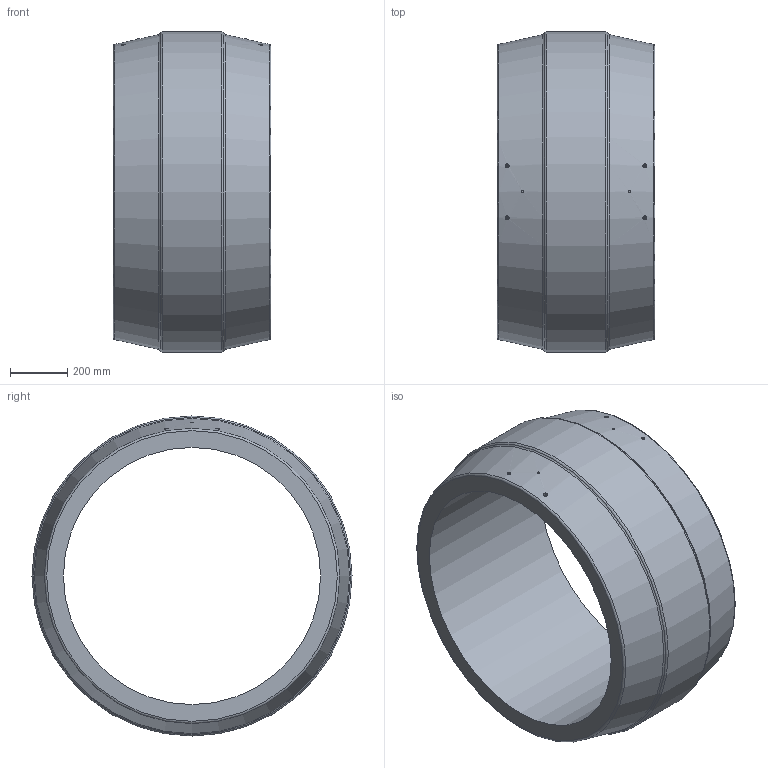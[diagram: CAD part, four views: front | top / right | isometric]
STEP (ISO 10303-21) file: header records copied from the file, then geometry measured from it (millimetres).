
FILE_DESCRIPTION(/* description */ ('Unknown'),/* implementation_level */ '2;1');
FILE_NAME(/* name */ 'MP900C',/* time_stamp */ '2021-06-25T10:08:05+02:00',/* author */ ('Unknown'),/* organization */ ('Unknown'),/* preprocessor_version */ 'ST-DEVELOPER v16.7',/* originating_system */ 'Solid Edge',/* authorisation */ 'Unknown');
FILE_SCHEMA (('AUTOMOTIVE_DESIGN {1 0 10303 214 3 1 1}'));
Length unit declared in the file: millimetre
Products named in the file (1): MP900C
Bounding box: 552 x 1120 x 1120 mm (x, y, z)
Volume: 162504213.9 mm3; surface area: 3885214.3 mm2
Topology: 1 solids, 1 shells, 32 faces, 64 edges, 43 vertices
Faces by surface type: cylinder 12, plane 12, torus 6, cone 2
Full cylindrical faces by diameter (mm): 4 x4, 8 x2, 14 x4, 900 x1, 1120 x1
Entity records: 736 total; most frequent: CARTESIAN_POINT 173, DIRECTION 118, ORIENTED_EDGE 64, EDGE_LOOP 64, FACE_BOUND 64, AXIS2_PLACEMENT_3D 59, EDGE_CURVE 32, VERTEX_POINT 32
